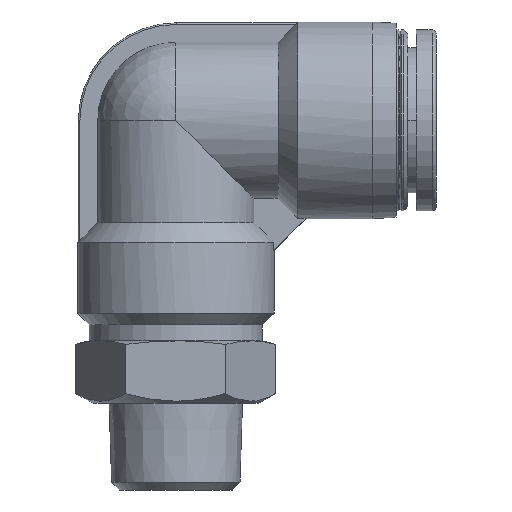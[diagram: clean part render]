
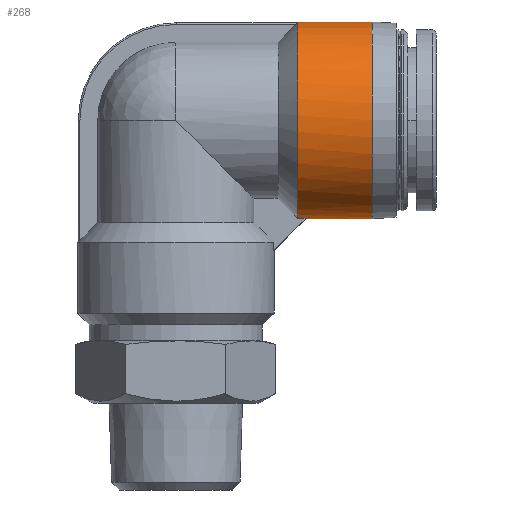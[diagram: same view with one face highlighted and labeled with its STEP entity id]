
A CAD part, front view. The second image highlights one B-rep face of the part: STEP entity #268.
In plain terms, the highlighted cylindrical face has radius 12.5 mm (diameter 25 mm), a partial arc.
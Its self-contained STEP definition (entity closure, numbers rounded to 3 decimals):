
#78=CYLINDRICAL_SURFACE('',#1910,12.5);
#98=ELLIPSE('',#1861,17.678,12.5);
#122=VECTOR('',#1972,1.063);
#129=VECTOR('',#1972,8.5);
#130=VECTOR('',#1972,9.5);
#188=LINE('',#1546,#122);
#195=LINE('',#1689,#129);
#196=LINE('',#1691,#130);
#268=ADVANCED_FACE('PL16-03_',(#369),#78,.T.);
#369=FACE_OUTER_BOUND('',#1331,.T.);
#584=ORIENTED_EDGE('',*,*,#869,.T.);
#585=ORIENTED_EDGE('',*,*,#867,.T.);
#586=ORIENTED_EDGE('',*,*,#797,.F.);
#587=ORIENTED_EDGE('',*,*,#823,.F.);
#588=ORIENTED_EDGE('',*,*,#819,.F.);
#589=ORIENTED_EDGE('',*,*,#866,.F.);
#797=EDGE_CURVE('78',#1216,#1217,#1124,.T.);
#819=EDGE_CURVE('142',#1231,#1226,#98,.T.);
#823=EDGE_CURVE('12',#1226,#1216,#188,.T.);
#866=EDGE_CURVE('143',#1264,#1231,#195,.T.);
#867=EDGE_CURVE('77',#1265,#1217,#196,.T.);
#869=EDGE_CURVE('80',#1264,#1265,#1156,.T.);
#1124=CIRCLE('',#1844,12.5);
#1156=CIRCLE('',#1909,12.5);
#1216=VERTEX_POINT('16',#1495);
#1217=VERTEX_POINT('75',#1500);
#1226=VERTEX_POINT('14',#1529);
#1231=VERTEX_POINT('101',#1538);
#1264=VERTEX_POINT('17',#1688);
#1265=VERTEX_POINT('76',#1690);
#1331=EDGE_LOOP('',(#584,#585,#586,#587,#588,#589));
#1495=CARTESIAN_POINT('',(15.5,-1.25,34.563));
#1500=CARTESIAN_POINT('',(15.5,0.,59.5));
#1501=CARTESIAN_POINT('',(15.5,0.,47.));
#1529=CARTESIAN_POINT('',(16.563,-1.25,34.563));
#1538=CARTESIAN_POINT('',(16.5,0.,34.5));
#1540=CARTESIAN_POINT('',(29.,0.,47.));
#1546=CARTESIAN_POINT('',(16.563,-1.25,34.563));
#1688=CARTESIAN_POINT('',(25.,0.,34.5));
#1689=CARTESIAN_POINT('',(25.,0.,34.5));
#1690=CARTESIAN_POINT('',(25.,0.,59.5));
#1691=CARTESIAN_POINT('',(25.,0.,59.5));
#1694=CARTESIAN_POINT('',(25.,0.,47.));
#1695=CARTESIAN_POINT('',(25.,0.,47.));
#1844=AXIS2_PLACEMENT_3D('',#1501,#1972,#1992);
#1861=AXIS2_PLACEMENT_3D('',#1540,#2001,#2002);
#1909=AXIS2_PLACEMENT_3D('',#1694,#1972,#1973);
#1910=AXIS2_PLACEMENT_3D('',#1695,#1972,#2008);
#1972=DIRECTION('',(-1.,0.,0.));
#1973=DIRECTION('',(0.,0.,-1.));
#1992=DIRECTION('',(0.,-0.1,-0.995));
#2001=DIRECTION('',(-0.707,0.,0.707));
#2002=DIRECTION('',(-0.707,0.,-0.707));
#2008=DIRECTION('',(0.,0.044,-0.999));
